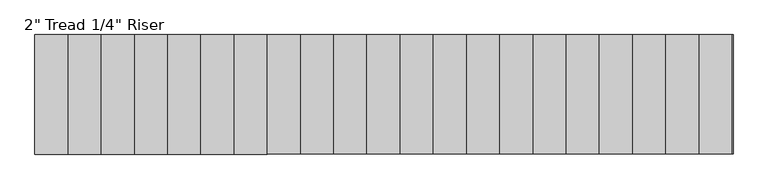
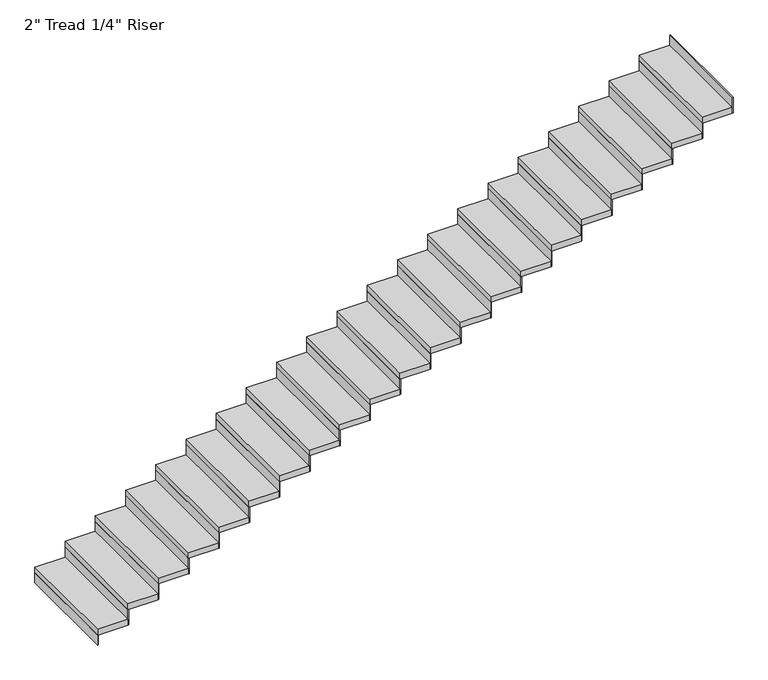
"""IFC4 building model written with IfcOpenShell, lengths in millimetres: stair flight geometry."""

from ifc_helpers import new_model, si_unit, frame, origin, origin_with_axes, place, context, project, spatial, polyline, outline, extrude, source, transform, mapped, element, save


def stair_flight_c568fea4(model_context):
    return source(origin(), model_context, "Body", "SweptSolid", [
        extrude(outline(polyline([(35788.2667764, 15846.0395941), (35781.9167764, 15846.0395941), (35781.9167764, 16760.4395941), (35788.2667764, 16760.4395941), (35788.2667764, 15846.0395941)])), origin_with_axes(), (0.0, 0.0, 1.0), 87.7454545),
        extrude(outline(polyline([(36035.9167764, 16760.4395941), (36035.9167764, 15846.0395941), (35781.9167764, 15846.0395941), (35781.9167764, 16760.4395941), (36035.9167764, 16760.4395941)])), frame((0.0, 0.0, 87.7454545), z_axis=(0.0, 0.0, 1.0), x_axis=(1.0, 0.0, 0.0)), (0.0, 0.0, 1.0), 50.8),
        extrude(outline(polyline([(36042.2667764, 15846.0395941), (36035.9167764, 15846.0395941), (36035.9167764, 16760.4395941), (36042.2667764, 16760.4395941), (36042.2667764, 15846.0395941)])), frame((0.0, 0.0, 87.7454545), z_axis=(0.0, 0.0, 1.0), x_axis=(1.0, 0.0, 0.0)), (0.0, 0.0, 1.0), 138.5454545),
        extrude(outline(polyline([(36289.9167764, 16760.4395941), (36289.9167764, 15846.0395941), (36035.9167764, 15846.0395941), (36035.9167764, 16760.4395941), (36289.9167764, 16760.4395941)])), frame((0.0, 0.0, 226.2909091), z_axis=(0.0, 0.0, 1.0), x_axis=(1.0, 0.0, 0.0)), (0.0, 0.0, 1.0), 50.8),
        extrude(outline(polyline([(36296.2667764, 15846.0395941), (36289.9167764, 15846.0395941), (36289.9167764, 16760.4395941), (36296.2667764, 16760.4395941), (36296.2667764, 15846.0395941)])), frame((0.0, 0.0, 226.2909091), z_axis=(0.0, 0.0, 1.0), x_axis=(1.0, 0.0, 0.0)), (0.0, 0.0, 1.0), 138.5454545),
        extrude(outline(polyline([(36543.9167764, 16760.4395941), (36543.9167764, 15846.0395941), (36289.9167764, 15846.0395941), (36289.9167764, 16760.4395941), (36543.9167764, 16760.4395941)])), frame((0.0, 0.0, 364.8363636), z_axis=(0.0, 0.0, 1.0), x_axis=(1.0, 0.0, 0.0)), (0.0, 0.0, 1.0), 50.8),
        extrude(outline(polyline([(36550.2667764, 15846.0395941), (36543.9167764, 15846.0395941), (36543.9167764, 16760.4395941), (36550.2667764, 16760.4395941), (36550.2667764, 15846.0395941)])), frame((0.0, 0.0, 364.8363636), z_axis=(0.0, 0.0, 1.0), x_axis=(1.0, 0.0, 0.0)), (0.0, 0.0, 1.0), 138.5454545),
        extrude(outline(polyline([(36797.9167764, 16760.4395941), (36797.9167764, 15846.0395941), (36543.9167764, 15846.0395941), (36543.9167764, 16760.4395941), (36797.9167764, 16760.4395941)])), frame((0.0, 0.0, 503.3818182), z_axis=(0.0, 0.0, 1.0), x_axis=(1.0, 0.0, 0.0)), (0.0, 0.0, 1.0), 50.8),
        extrude(outline(polyline([(36804.2667764, 15846.0395941), (36797.9167764, 15846.0395941), (36797.9167764, 16760.4395941), (36804.2667764, 16760.4395941), (36804.2667764, 15846.0395941)])), frame((0.0, 0.0, 503.3818182), z_axis=(0.0, 0.0, 1.0), x_axis=(1.0, 0.0, 0.0)), (0.0, 0.0, 1.0), 138.5454545),
        extrude(outline(polyline([(37051.9167764, 16760.4395941), (37051.9167764, 15846.0395941), (36797.9167764, 15846.0395941), (36797.9167764, 16760.4395941), (37051.9167764, 16760.4395941)])), frame((0.0, 0.0, 641.9272727), z_axis=(0.0, 0.0, 1.0), x_axis=(1.0, 0.0, 0.0)), (0.0, 0.0, 1.0), 50.8),
        extrude(outline(polyline([(37058.2667764, 15846.0395941), (37051.9167764, 15846.0395941), (37051.9167764, 16760.4395941), (37058.2667764, 16760.4395941), (37058.2667764, 15846.0395941)])), frame((0.0, 0.0, 641.9272727), z_axis=(0.0, 0.0, 1.0), x_axis=(1.0, 0.0, 0.0)), (0.0, 0.0, 1.0), 138.5454545),
        extrude(outline(polyline([(37305.9167764, 16760.4395941), (37305.9167764, 15846.0395941), (37051.9167764, 15846.0395941), (37051.9167764, 16760.4395941), (37305.9167764, 16760.4395941)])), frame((0.0, 0.0, 780.4727273), z_axis=(0.0, 0.0, 1.0), x_axis=(1.0, 0.0, 0.0)), (0.0, 0.0, 1.0), 50.8),
        extrude(outline(polyline([(37312.2667764, 15846.0395941), (37305.9167764, 15846.0395941), (37305.9167764, 16760.4395941), (37312.2667764, 16760.4395941), (37312.2667764, 15846.0395941)])), frame((0.0, 0.0, 780.4727273), z_axis=(0.0, 0.0, 1.0), x_axis=(1.0, 0.0, 0.0)), (0.0, 0.0, 1.0), 138.5454545),
        extrude(outline(polyline([(37559.9167764, 16760.4395941), (37559.9167764, 15846.0395941), (37305.9167764, 15846.0395941), (37305.9167764, 16760.4395941), (37559.9167764, 16760.4395941)])), frame((0.0, 0.0, 919.0181818), z_axis=(0.0, 0.0, 1.0), x_axis=(1.0, 0.0, 0.0)), (0.0, 0.0, 1.0), 50.8),
        extrude(outline(polyline([(37566.2667764, 15846.0395941), (37559.9167764, 15846.0395941), (37559.9167764, 16760.4395941), (37566.2667764, 16760.4395941), (37566.2667764, 15846.0395941)])), frame((0.0, 0.0, 919.0181818), z_axis=(0.0, 0.0, 1.0), x_axis=(1.0, 0.0, 0.0)), (0.0, 0.0, 1.0), 138.5454545),
        extrude(outline(polyline([(37813.9167764, 16760.4395941), (37813.9167764, 15846.0395941), (37559.9167764, 15846.0395941), (37559.9167764, 16760.4395941), (37813.9167764, 16760.4395941)])), frame((0.0, 0.0, 1057.5636364), z_axis=(0.0, 0.0, 1.0), x_axis=(1.0, 0.0, 0.0)), (0.0, 0.0, 1.0), 50.8),
        extrude(outline(polyline([(37820.2667764, 15846.0395941), (37813.9167764, 15846.0395941), (37813.9167764, 16760.4395941), (37820.2667764, 16760.4395941), (37820.2667764, 15846.0395941)])), frame((0.0, 0.0, 1057.5636364), z_axis=(0.0, 0.0, 1.0), x_axis=(1.0, 0.0, 0.0)), (0.0, 0.0, 1.0), 138.5454545),
        extrude(outline(polyline([(38067.9167764, 16760.4395941), (38067.9167764, 15846.0395941), (37813.9167764, 15846.0395941), (37813.9167764, 16760.4395941), (38067.9167764, 16760.4395941)])), frame((0.0, 0.0, 1196.1090909), z_axis=(0.0, 0.0, 1.0), x_axis=(1.0, 0.0, 0.0)), (0.0, 0.0, 1.0), 50.8),
        extrude(outline(polyline([(38074.2667764, 15846.0395941), (38067.9167764, 15846.0395941), (38067.9167764, 16760.4395941), (38074.2667764, 16760.4395941), (38074.2667764, 15846.0395941)])), frame((0.0, 0.0, 1196.1090909), z_axis=(0.0, 0.0, 1.0), x_axis=(1.0, 0.0, 0.0)), (0.0, 0.0, 1.0), 138.5454545),
        extrude(outline(polyline([(38321.9167764, 16760.4395941), (38321.9167764, 15846.0395941), (38067.9167764, 15846.0395941), (38067.9167764, 16760.4395941), (38321.9167764, 16760.4395941)])), frame((0.0, 0.0, 1334.6545455), z_axis=(0.0, 0.0, 1.0), x_axis=(1.0, 0.0, 0.0)), (0.0, 0.0, 1.0), 50.8),
        extrude(outline(polyline([(38328.2667764, 15846.0395941), (38321.9167764, 15846.0395941), (38321.9167764, 16760.4395941), (38328.2667764, 16760.4395941), (38328.2667764, 15846.0395941)])), frame((0.0, 0.0, 1334.6545455), z_axis=(0.0, 0.0, 1.0), x_axis=(1.0, 0.0, 0.0)), (0.0, 0.0, 1.0), 138.5454545),
        extrude(outline(polyline([(38575.9167764, 16760.4395941), (38575.9167764, 15846.0395941), (38321.9167764, 15846.0395941), (38321.9167764, 16760.4395941), (38575.9167764, 16760.4395941)])), frame((0.0, 0.0, 1473.2), z_axis=(0.0, 0.0, 1.0), x_axis=(1.0, 0.0, 0.0)), (0.0, 0.0, 1.0), 50.8),
        extrude(outline(polyline([(38582.2667764, 15846.0395941), (38575.9167764, 15846.0395941), (38575.9167764, 16760.4395941), (38582.2667764, 16760.4395941), (38582.2667764, 15846.0395941)])), frame((0.0, 0.0, 1473.2), z_axis=(0.0, 0.0, 1.0), x_axis=(1.0, 0.0, 0.0)), (0.0, 0.0, 1.0), 138.5454545),
        extrude(outline(polyline([(38829.9167764, 16760.4395941), (38829.9167764, 15846.0395941), (38575.9167764, 15846.0395941), (38575.9167764, 16760.4395941), (38829.9167764, 16760.4395941)])), frame((0.0, 0.0, 1611.7454545), z_axis=(0.0, 0.0, 1.0), x_axis=(1.0, 0.0, 0.0)), (0.0, 0.0, 1.0), 50.8),
        extrude(outline(polyline([(38836.2667764, 15846.0395941), (38829.9167764, 15846.0395941), (38829.9167764, 16760.4395941), (38836.2667764, 16760.4395941), (38836.2667764, 15846.0395941)])), frame((0.0, 0.0, 1611.7454545), z_axis=(0.0, 0.0, 1.0), x_axis=(1.0, 0.0, 0.0)), (0.0, 0.0, 1.0), 138.5454545),
        extrude(outline(polyline([(39083.9167764, 16760.4395941), (39083.9167764, 15846.0395941), (38829.9167764, 15846.0395941), (38829.9167764, 16760.4395941), (39083.9167764, 16760.4395941)])), frame((0.0, 0.0, 1750.2909091), z_axis=(0.0, 0.0, 1.0), x_axis=(1.0, 0.0, 0.0)), (0.0, 0.0, 1.0), 50.8),
        extrude(outline(polyline([(39090.2667764, 15846.0395941), (39083.9167764, 15846.0395941), (39083.9167764, 16760.4395941), (39090.2667764, 16760.4395941), (39090.2667764, 15846.0395941)])), frame((0.0, 0.0, 1750.2909091), z_axis=(0.0, 0.0, 1.0), x_axis=(1.0, 0.0, 0.0)), (0.0, 0.0, 1.0), 138.5454545),
        extrude(outline(polyline([(39337.9167764, 16760.4395941), (39337.9167764, 15846.0395941), (39083.9167764, 15846.0395941), (39083.9167764, 16760.4395941), (39337.9167764, 16760.4395941)])), frame((0.0, 0.0, 1888.8363636), z_axis=(0.0, 0.0, 1.0), x_axis=(1.0, 0.0, 0.0)), (0.0, 0.0, 1.0), 50.8),
        extrude(outline(polyline([(39344.2667764, 15846.0395941), (39337.9167764, 15846.0395941), (39337.9167764, 16760.4395941), (39344.2667764, 16760.4395941), (39344.2667764, 15846.0395941)])), frame((0.0, 0.0, 1888.8363636), z_axis=(0.0, 0.0, 1.0), x_axis=(1.0, 0.0, 0.0)), (0.0, 0.0, 1.0), 138.5454545),
        extrude(outline(polyline([(39591.9167764, 16760.4395941), (39591.9167764, 15846.0395941), (39337.9167764, 15846.0395941), (39337.9167764, 16760.4395941), (39591.9167764, 16760.4395941)])), frame((0.0, 0.0, 2027.3818182), z_axis=(0.0, 0.0, 1.0), x_axis=(1.0, 0.0, 0.0)), (0.0, 0.0, 1.0), 50.8),
        extrude(outline(polyline([(39598.2667764, 15846.0395941), (39591.9167764, 15846.0395941), (39591.9167764, 16760.4395941), (39598.2667764, 16760.4395941), (39598.2667764, 15846.0395941)])), frame((0.0, 0.0, 2027.3818182), z_axis=(0.0, 0.0, 1.0), x_axis=(1.0, 0.0, 0.0)), (0.0, 0.0, 1.0), 138.5454545),
        extrude(outline(polyline([(39845.9167764, 16760.4395941), (39845.9167764, 15846.0395941), (39591.9167764, 15846.0395941), (39591.9167764, 16760.4395941), (39845.9167764, 16760.4395941)])), frame((0.0, 0.0, 2165.9272727), z_axis=(0.0, 0.0, 1.0), x_axis=(1.0, 0.0, 0.0)), (0.0, 0.0, 1.0), 50.8),
        extrude(outline(polyline([(39852.2667764, 15846.0395941), (39845.9167764, 15846.0395941), (39845.9167764, 16760.4395941), (39852.2667764, 16760.4395941), (39852.2667764, 15846.0395941)])), frame((0.0, 0.0, 2165.9272727), z_axis=(0.0, 0.0, 1.0), x_axis=(1.0, 0.0, 0.0)), (0.0, 0.0, 1.0), 138.5454545),
        extrude(outline(polyline([(40099.9167764, 16760.4395941), (40099.9167764, 15846.0395941), (39845.9167764, 15846.0395941), (39845.9167764, 16760.4395941), (40099.9167764, 16760.4395941)])), frame((0.0, 0.0, 2304.4727273), z_axis=(0.0, 0.0, 1.0), x_axis=(1.0, 0.0, 0.0)), (0.0, 0.0, 1.0), 50.8),
        extrude(outline(polyline([(40106.2667764, 15846.0395941), (40099.9167764, 15846.0395941), (40099.9167764, 16760.4395941), (40106.2667764, 16760.4395941), (40106.2667764, 15846.0395941)])), frame((0.0, 0.0, 2304.4727273), z_axis=(0.0, 0.0, 1.0), x_axis=(1.0, 0.0, 0.0)), (0.0, 0.0, 1.0), 138.5454545),
        extrude(outline(polyline([(40353.9167764, 16760.4395941), (40353.9167764, 15846.0395941), (40099.9167764, 15846.0395941), (40099.9167764, 16760.4395941), (40353.9167764, 16760.4395941)])), frame((0.0, 0.0, 2443.0181818), z_axis=(0.0, 0.0, 1.0), x_axis=(1.0, 0.0, 0.0)), (0.0, 0.0, 1.0), 50.8),
        extrude(outline(polyline([(40360.2667764, 15846.0395941), (40353.9167764, 15846.0395941), (40353.9167764, 16760.4395941), (40360.2667764, 16760.4395941), (40360.2667764, 15846.0395941)])), frame((0.0, 0.0, 2443.0181818), z_axis=(0.0, 0.0, 1.0), x_axis=(1.0, 0.0, 0.0)), (0.0, 0.0, 1.0), 138.5454545),
        extrude(outline(polyline([(40607.9167764, 16760.4395941), (40607.9167764, 15846.0395941), (40353.9167764, 15846.0395941), (40353.9167764, 16760.4395941), (40607.9167764, 16760.4395941)])), frame((0.0, 0.0, 2581.5636364), z_axis=(0.0, 0.0, 1.0), x_axis=(1.0, 0.0, 0.0)), (0.0, 0.0, 1.0), 50.8),
        extrude(outline(polyline([(40614.2667764, 15846.0395941), (40607.9167764, 15846.0395941), (40607.9167764, 16760.4395941), (40614.2667764, 16760.4395941), (40614.2667764, 15846.0395941)])), frame((0.0, 0.0, 2581.5636364), z_axis=(0.0, 0.0, 1.0), x_axis=(1.0, 0.0, 0.0)), (0.0, 0.0, 1.0), 138.5454545),
        extrude(outline(polyline([(40861.9167764, 16760.4395941), (40861.9167764, 15846.0395941), (40607.9167764, 15846.0395941), (40607.9167764, 16760.4395941), (40861.9167764, 16760.4395941)])), frame((0.0, 0.0, 2720.1090909), z_axis=(0.0, 0.0, 1.0), x_axis=(1.0, 0.0, 0.0)), (0.0, 0.0, 1.0), 50.8),
        extrude(outline(polyline([(40868.2667764, 15846.0395941), (40861.9167764, 15846.0395941), (40861.9167764, 16760.4395941), (40868.2667764, 16760.4395941), (40868.2667764, 15846.0395941)])), frame((0.0, 0.0, 2720.1090909), z_axis=(0.0, 0.0, 1.0), x_axis=(1.0, 0.0, 0.0)), (0.0, 0.0, 1.0), 138.5454545),
        extrude(outline(polyline([(41122.2667764, 15846.0395941), (41115.9167764, 15846.0395941), (41115.9167764, 16760.4395941), (41122.2667764, 16760.4395941), (41122.2667764, 15846.0395941)])), frame((0.0, 0.0, 2858.6545455), z_axis=(0.0, 0.0, 1.0), x_axis=(1.0, 0.0, 0.0)), (0.0, 0.0, 1.0), 138.5454545),
        extrude(outline(polyline([(41115.9167764, 16760.4395941), (41115.9167764, 15846.0395941), (40861.9167764, 15846.0395941), (40861.9167764, 16760.4395941), (41115.9167764, 16760.4395941)])), frame((0.0, 0.0, 2858.6545455), z_axis=(0.0, 0.0, 1.0), x_axis=(1.0, 0.0, 0.0)), (0.0, 0.0, 1.0), 50.8),
    ])


if __name__ == "__main__":
    model = new_model("IFC4")
    model_context = context("Model", 3, world=origin())
    ifc_project = project(units=[si_unit("LENGTHUNIT", "METRE", prefix="MILLI")], contexts=[model_context])
    site = spatial("IfcSite", under=ifc_project)
    building = spatial("IfcBuilding", under=site)
    placement = place(None, origin())
    stair_flight_shape = stair_flight_c568fea4(model_context)
    element("IfcStairFlight", 1, ObjectType="2\" Tread 1/4\" Riser", at=placement, inside=building, context=model_context, shape_type="MappedRepresentation", body=[
        mapped(stair_flight_shape, transform((0.0, 0.0, 0.0), x_axis=(1.0, 0.0, 0.0), y_axis=(0.0, 1.0, 0.0), z_axis=(0.0, 0.0, 1.0))),
    ])
    save(model, "model.ifc")
